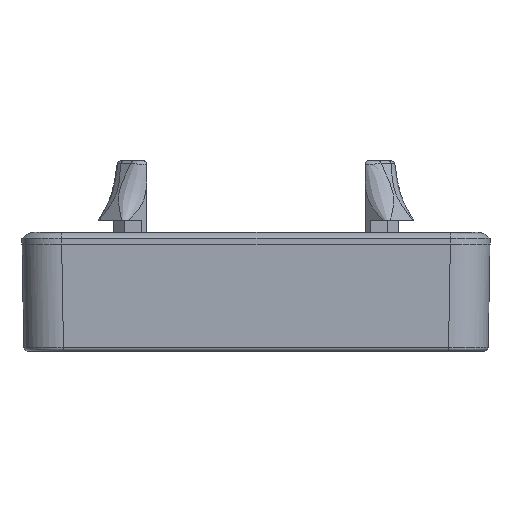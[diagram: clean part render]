
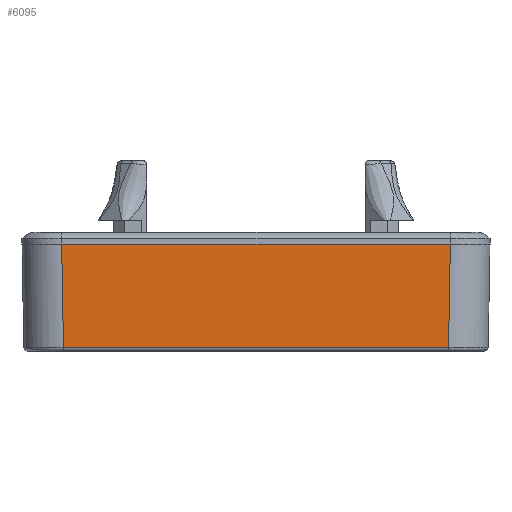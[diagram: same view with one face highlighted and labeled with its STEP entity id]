
A CAD part, left-side view. The second image highlights one B-rep face of the part: STEP entity #6095.
In plain terms, the highlighted planar face has unit normal (-1, 0, -0.018).
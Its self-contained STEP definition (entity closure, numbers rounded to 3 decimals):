
#4556=FACE_OUTER_BOUND('',#12742,.T.);
#6095=ADVANCED_FACE('',(#4556),#7552,.F.);
#7552=PLANE('',#31299);
#8660=LINE('',#44613,#10064);
#8663=LINE('',#44647,#10067);
#8668=LINE('',#44703,#10072);
#8669=LINE('',#44704,#10073);
#10064=VECTOR('',#34456,1.);
#10067=VECTOR('',#34465,1.);
#10072=VECTOR('',#34478,1.);
#10073=VECTOR('',#34479,1.);
#12742=EDGE_LOOP('',(#16284,#16285,#16286,#16287));
#16284=ORIENTED_EDGE('',*,*,#26741,.T.);
#16285=ORIENTED_EDGE('',*,*,#26755,.T.);
#16286=ORIENTED_EDGE('',*,*,#26732,.T.);
#16287=ORIENTED_EDGE('',*,*,#26756,.F.);
#23606=VERTEX_POINT('',#44614);
#23607=VERTEX_POINT('',#44615);
#23615=VERTEX_POINT('',#44646);
#23616=VERTEX_POINT('',#44648);
#26732=EDGE_CURVE('',#23606,#23607,#8660,.T.);
#26741=EDGE_CURVE('',#23616,#23615,#8663,.T.);
#26755=EDGE_CURVE('',#23615,#23606,#8668,.T.);
#26756=EDGE_CURVE('',#23616,#23607,#8669,.T.);
#31299=AXIS2_PLACEMENT_3D('',#44705,#34480,#34481);
#34456=DIRECTION('',(-0.017,-0.017,1.));
#34465=DIRECTION('',(0.017,-0.017,-1.));
#34478=DIRECTION('',(0.,-1.,0.));
#34479=DIRECTION('',(0.,-1.,0.));
#34480=DIRECTION('',(1.,0.,0.017));
#34481=DIRECTION('',(0.017,0.,-1.));
#44613=CARTESIAN_POINT('',(-73.493,-24.493,13.073));
#44614=CARTESIAN_POINT('',(-73.273,-24.274,0.491));
#44615=CARTESIAN_POINT('',(-73.5,-24.501,13.5));
#44646=CARTESIAN_POINT('',(-73.273,24.274,0.491));
#44647=CARTESIAN_POINT('',(-73.493,24.493,13.073));
#44648=CARTESIAN_POINT('',(-73.5,24.501,13.5));
#44703=CARTESIAN_POINT('',(-73.273,0.,0.491));
#44704=CARTESIAN_POINT('',(-73.5,0.,13.5));
#44705=CARTESIAN_POINT('',(-73.5,0.,13.5));
